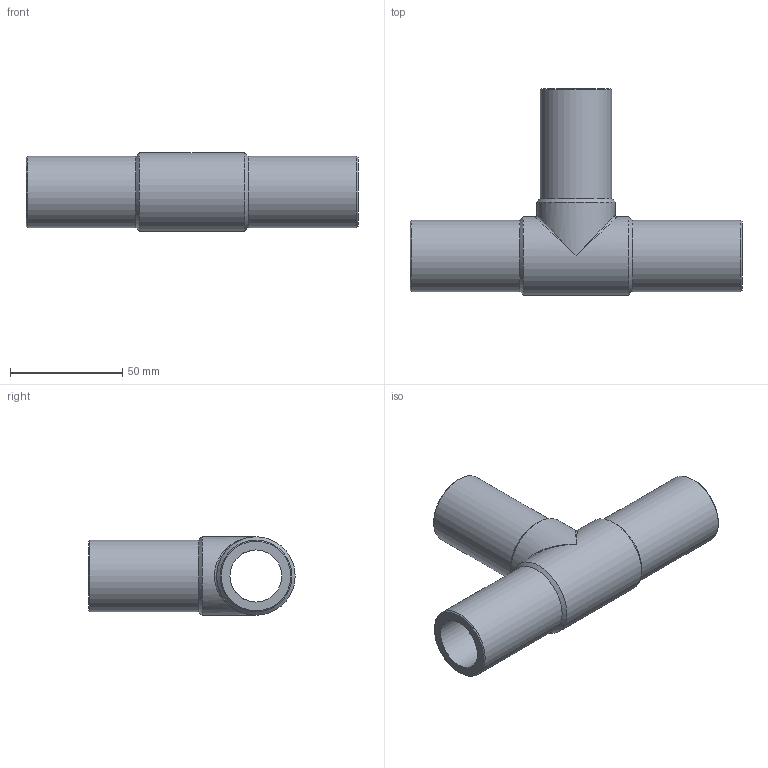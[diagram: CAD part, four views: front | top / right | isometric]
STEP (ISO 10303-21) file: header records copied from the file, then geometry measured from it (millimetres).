
FILE_DESCRIPTION(/* description */ ('Unknown'),/* implementation_level */ '2;1');
FILE_NAME(/* name */ 'TP032H',/* time_stamp */ '2021-08-12T16:28:32+02:00',/* author */ ('Unknown'),/* organization */ ('Unknown'),/* preprocessor_version */ 'ST-DEVELOPER v16.7',/* originating_system */ 'Solid Edge',/* authorisation */ 'Unknown');
FILE_SCHEMA (('AUTOMOTIVE_DESIGN {1 0 10303 214 3 1 1}'));
Length unit declared in the file: millimetre
Products named in the file (1): TP032H
Bounding box: 148 x 92 x 35 mm (x, y, z)
Volume: 86288 mm3; surface area: 36982 mm2
Topology: 1 solids, 1 shells, 18 faces, 44 edges, 23 vertices
Faces by surface type: cylinder 7, cone 6, plane 3, bspline 2
Full cylindrical faces by diameter (mm): 23.2 x2, 32 x3, 35 x2
Entity records: 480 total; most frequent: CARTESIAN_POINT 123, DIRECTION 76, ORIENTED_EDGE 42, AXIS2_PLACEMENT_3D 38, EDGE_LOOP 36, FACE_BOUND 36, EDGE_CURVE 21, VERTEX_POINT 19
